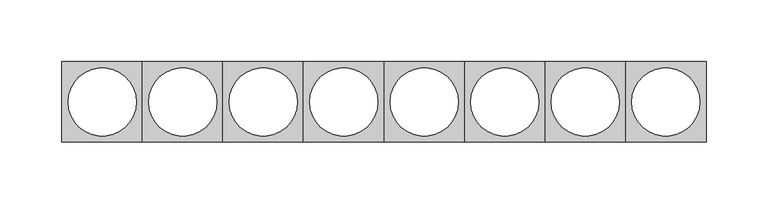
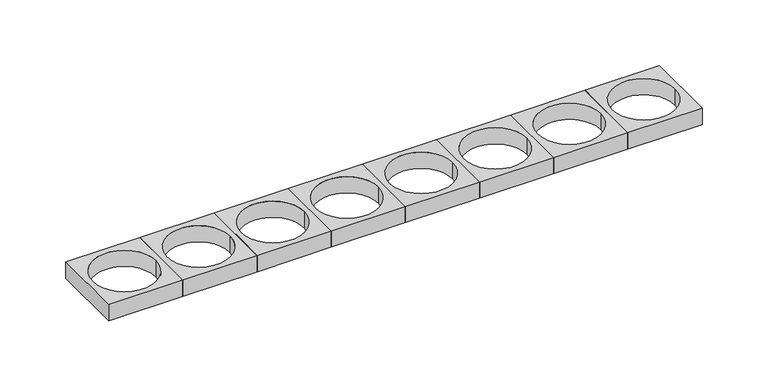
"""IFC4 building model written with IfcOpenShell, lengths in millimetres: duct fitting geometry, Mosaic Суппорт на 8 модулей : 65мм."""

from ifc_helpers import new_model, si_unit, point, frame_2d, origin, origin_with_axes, origin_2d, place, context, project, spatial, polyline, circle_curve, trimmed, segment, composite_curve, outline, extrude, source, transform, mapped, element, save


def duct_fitting_1822938c(model_context):
    return source(origin(), model_context, "Body", "SweptSolid", [
        extrude(outline(polyline([(487.5, 32.5), (487.5, -32.5), (422.5, -32.5), (422.5, 32.5), (487.5, 32.5)]), holes=[composite_curve([segment(trimmed(circle_curve(frame_2d((455.0, 0.0)), 27.5), [point((427.5, 0.0))], [point((482.5, 0.0))], True, "CARTESIAN"), True, "CONTINUOUS"), segment(trimmed(circle_curve(frame_2d((455.0, 0.0)), 27.5), [point((482.5, 0.0))], [point((427.5, 0.0))], True, "CARTESIAN"), True, "CONTINUOUS")], self_intersect=False)]), origin_with_axes(), (0.0, 0.0, 1.0), 15.0),
        extrude(outline(polyline([(422.5, 32.5), (422.5, -32.5), (357.5, -32.5), (357.5, 32.5), (422.5, 32.5)]), holes=[composite_curve([segment(trimmed(circle_curve(frame_2d((390.0, 0.0)), 27.5), [point((362.5, 0.0))], [point((417.5, 0.0))], True, "CARTESIAN"), True, "CONTINUOUS"), segment(trimmed(circle_curve(frame_2d((390.0, 0.0)), 27.5), [point((417.5, 0.0))], [point((362.5, 0.0))], True, "CARTESIAN"), True, "CONTINUOUS")], self_intersect=False)]), origin_with_axes(), (0.0, 0.0, 1.0), 15.0),
        extrude(outline(polyline([(357.5, 32.5), (357.5, -32.5), (292.5, -32.5), (292.5, 32.5), (357.5, 32.5)]), holes=[composite_curve([segment(trimmed(circle_curve(frame_2d((325.0, 0.0)), 27.5), [point((297.5, 0.0))], [point((352.5, 0.0))], True, "CARTESIAN"), True, "CONTINUOUS"), segment(trimmed(circle_curve(frame_2d((325.0, 0.0)), 27.5), [point((352.5, 0.0))], [point((297.5, 0.0))], True, "CARTESIAN"), True, "CONTINUOUS")], self_intersect=False)]), origin_with_axes(), (0.0, 0.0, 1.0), 15.0),
        extrude(outline(polyline([(292.5, 32.5), (292.5, -32.5), (227.5, -32.5), (227.5, 32.5), (292.5, 32.5)]), holes=[composite_curve([segment(trimmed(circle_curve(frame_2d((260.0, 0.0)), 27.5), [point((232.5, 0.0))], [point((287.5, 0.0))], True, "CARTESIAN"), True, "CONTINUOUS"), segment(trimmed(circle_curve(frame_2d((260.0, 0.0)), 27.5), [point((287.5, 0.0))], [point((232.5, 0.0))], True, "CARTESIAN"), True, "CONTINUOUS")], self_intersect=False)]), origin_with_axes(), (0.0, 0.0, 1.0), 15.0),
        extrude(outline(polyline([(227.5, 32.5), (227.5, -32.5), (162.5, -32.5), (162.5, 32.5), (227.5, 32.5)]), holes=[composite_curve([segment(trimmed(circle_curve(frame_2d((195.0, 0.0)), 27.5), [point((167.5, 0.0))], [point((222.5, 0.0))], True, "CARTESIAN"), True, "CONTINUOUS"), segment(trimmed(circle_curve(frame_2d((195.0, 0.0)), 27.5), [point((222.5, 0.0))], [point((167.5, 0.0))], True, "CARTESIAN"), True, "CONTINUOUS")], self_intersect=False)]), origin_with_axes(), (0.0, 0.0, 1.0), 15.0),
        extrude(outline(polyline([(162.5, 32.5), (162.5, -32.5), (97.5, -32.5), (97.5, 32.5), (162.5, 32.5)]), holes=[composite_curve([segment(trimmed(circle_curve(frame_2d((130.0, 0.0)), 27.5), [point((102.5, 0.0))], [point((157.5, 0.0))], True, "CARTESIAN"), True, "CONTINUOUS"), segment(trimmed(circle_curve(frame_2d((130.0, 0.0)), 27.5), [point((157.5, 0.0))], [point((102.5, 0.0))], True, "CARTESIAN"), True, "CONTINUOUS")], self_intersect=False)]), origin_with_axes(), (0.0, 0.0, 1.0), 15.0),
        extrude(outline(polyline([(97.5, 32.5), (97.5, -32.5), (32.5, -32.5), (32.5, 32.5), (97.5, 32.5)]), holes=[composite_curve([segment(trimmed(circle_curve(frame_2d((65.0, 0.0)), 27.5), [point((37.5, 0.0))], [point((92.5, 0.0))], True, "CARTESIAN"), True, "CONTINUOUS"), segment(trimmed(circle_curve(frame_2d((65.0, 0.0)), 27.5), [point((92.5, 0.0))], [point((37.5, 0.0))], True, "CARTESIAN"), True, "CONTINUOUS")], self_intersect=False)]), origin_with_axes(), (0.0, 0.0, 1.0), 15.0),
        extrude(outline(polyline([(32.5, 32.5), (32.5, -32.5), (-32.5, -32.5), (-32.5, 32.5), (32.5, 32.5)]), holes=[composite_curve([segment(trimmed(circle_curve(origin_2d(), 27.5), [point((-27.5, 0.0))], [point((27.5, 0.0))], True, "CARTESIAN"), True, "CONTINUOUS"), segment(trimmed(circle_curve(origin_2d(), 27.5), [point((27.5, 0.0))], [point((-27.5, 0.0))], True, "CARTESIAN"), True, "CONTINUOUS")], self_intersect=False)]), origin_with_axes(), (0.0, 0.0, 1.0), 15.0),
    ])


if __name__ == "__main__":
    model = new_model("IFC4")
    model_context = context("Model", 3, world=origin())
    ifc_project = project(units=[si_unit("LENGTHUNIT", "METRE", prefix="MILLI")], contexts=[model_context])
    site = spatial("IfcSite", under=ifc_project)
    building = spatial("IfcBuilding", under=site)
    placement = place(None, origin())
    duct_fitting_shape = duct_fitting_1822938c(model_context)
    element("IfcDuctFitting", 1, ObjectType="Mosaic Суппорт на 8 модулей : 65мм", at=placement, inside=building, context=model_context, shape_type="MappedRepresentation", body=[
        mapped(duct_fitting_shape, transform((0.0, 0.0, 0.0), x_axis=(1.0, 0.0, 0.0), y_axis=(0.0, 1.0, 0.0), z_axis=(0.0, 0.0, 1.0))),
    ])
    save(model, "model.ifc")
